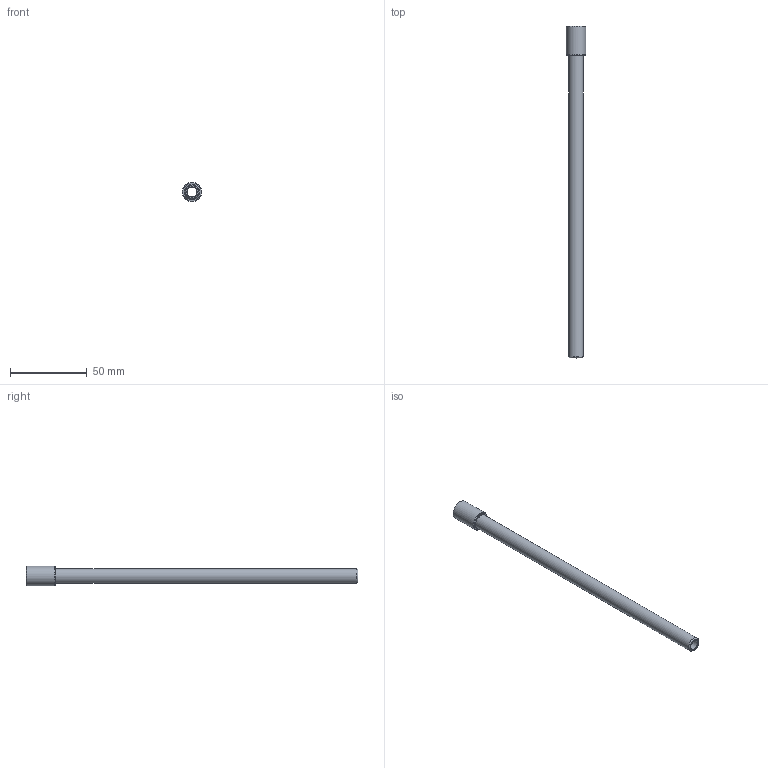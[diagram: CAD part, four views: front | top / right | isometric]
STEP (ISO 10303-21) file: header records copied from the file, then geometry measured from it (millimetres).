
FILE_DESCRIPTION(/* description */ (''),/* implementation_level */ '2;1');
FILE_NAME(/* name */ 'C:/Users/drich/Desktop/EP18X8-1_2 v1.step',/* time_stamp */ '2019-11-18T15:04:28-06:00',/* author */ (''),/* organization */ (''),/* preprocessor_version */ 'ST-DEVELOPER v18',/* originating_system */ 'Autodesk Translation Framework v8.12.0.6',/* authorisation */ '');
FILE_SCHEMA (('AUTOMOTIVE_DESIGN { 1 0 10303 214 3 1 1 }'));
Length unit declared in the file: inch
Products named in the file (2): EP18X8-1_2; EP18X4
Assembly tree (1 placements, depth 2):
  EP18X8-1_2
    EP18X4
Bounding box: 12.7 x 215.9 x 12.7 mm (x, y, z)
Volume: 9523.6 mm3; surface area: 11259.9 mm2
Topology: 1 solids, 1 shells, 23 faces, 55 edges, 37 vertices
Faces by surface type: plane 11, cone 7, cylinder 5
Full cylindrical faces by diameter (mm): 6.35 x1, 7.62 x1, 8.707 x1, 9.621 x1, 12.7 x1
Entity records: 740 total; most frequent: CARTESIAN_POINT 132, DIRECTION 124, ORIENTED_EDGE 110, EDGE_CURVE 55, AXIS2_PLACEMENT_3D 50, VERTEX_POINT 37, EDGE_LOOP 28, LINE 24
